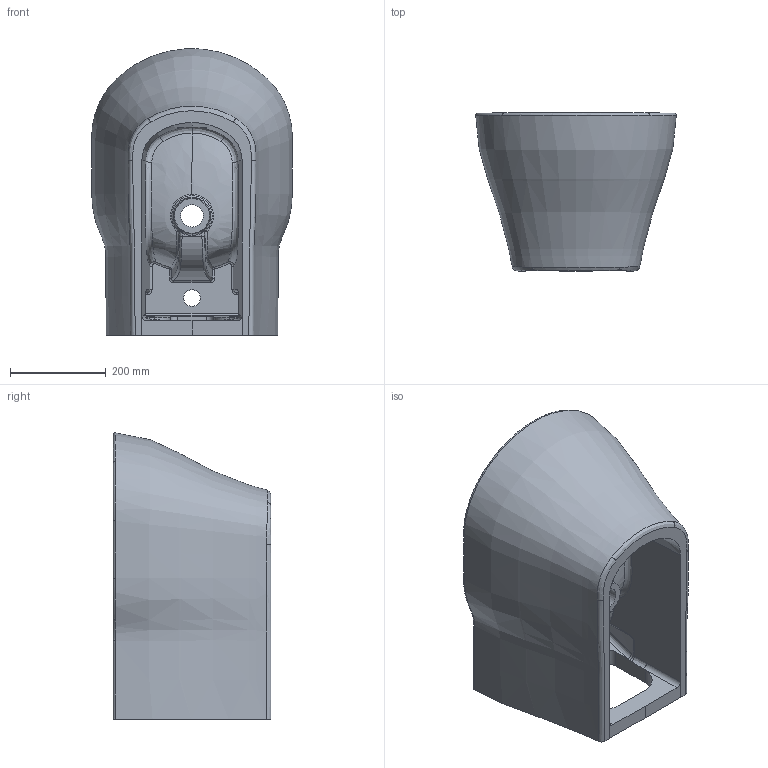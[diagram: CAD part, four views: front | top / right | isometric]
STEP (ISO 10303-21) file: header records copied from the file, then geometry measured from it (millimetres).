
FILE_DESCRIPTION (( 'STEP AP203' ), '1' );
FILE_NAME ('XL SOSPESO BIDET.STEP', '2018-12-06T14:51:04', ( '' ), ( '' ), 'SwSTEP 2.0', 'SolidWorks 2019', '' );
FILE_SCHEMA (( 'CONFIG_CONTROL_DESIGN' ));
Length unit declared in the file: millimetre
Products named in the file (1): XL SOSPESO BIDET
Bounding box: 419.93 x 330 x 599.24 mm (x, y, z)
Volume: 26742654.2 mm3; surface area: 1265485.1 mm2
Topology: 1 solids, 1 shells, 219 faces, 564 edges, 344 vertices
Faces by surface type: bspline 86, cylinder 49, torus 34, plane 31, cone 11, sphere 8
Entity records: 64990 total; most frequent: CARTESIAN_POINT 60150, ORIENTED_EDGE 1116, DIRECTION 877, EDGE_CURVE 558, AXIS2_PLACEMENT_3D 373, VERTEX_POINT 344, CIRCLE 239, EDGE_LOOP 232
